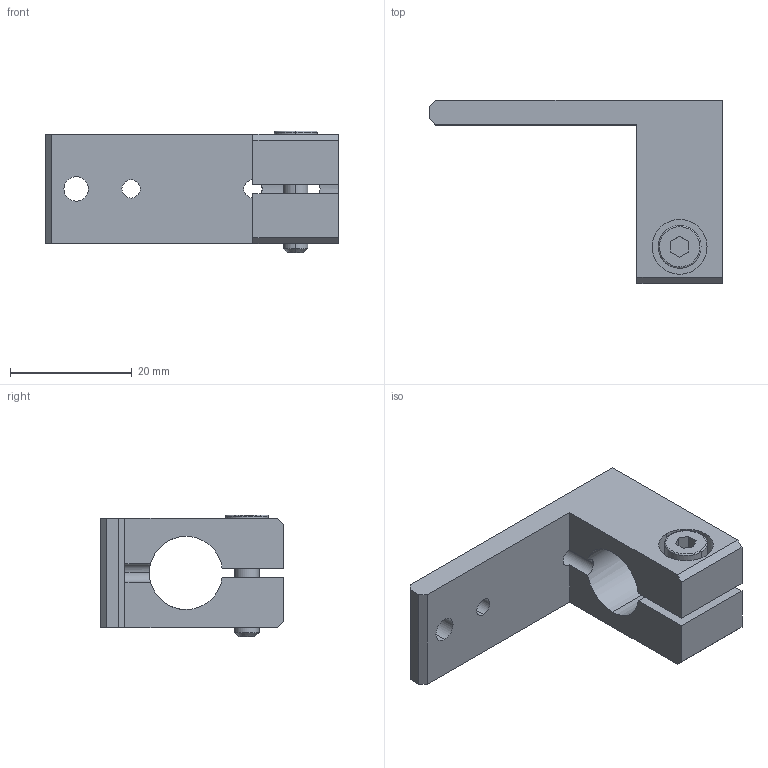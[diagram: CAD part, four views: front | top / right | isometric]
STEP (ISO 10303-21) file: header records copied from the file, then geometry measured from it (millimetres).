
FILE_DESCRIPTION (( 'STEP AP214' ), '1' );
FILE_NAME ('SMBT9-12T.STEP', '2023-01-04T03:42:32', ( 'Windows User' ), ( 'P R C' ), 'SwSTEP 2.0', 'SolidWorks 2018', '' );
FILE_SCHEMA (( 'AUTOMOTIVE_DESIGN' ));
Length unit declared in the file: millimetre
Products named in the file (1): SMBT9-12T
Bounding box: 48 x 30 x 20 mm (x, y, z)
Volume: 7846.7 mm3; surface area: 5236.3 mm2
Topology: 3 solids, 3 shells, 248 faces, 714 edges, 472 vertices
Faces by surface type: plane 219, cylinder 25, cone 2, bspline 2
Entity records: 11166 total; most frequent: CARTESIAN_POINT 1643, DIRECTION 1435, ORIENTED_EDGE 1428, EDGE_CURVE 714, AXIS2_PLACEMENT_3D 482, VERTEX_POINT 472, LINE 471, VECTOR 471
